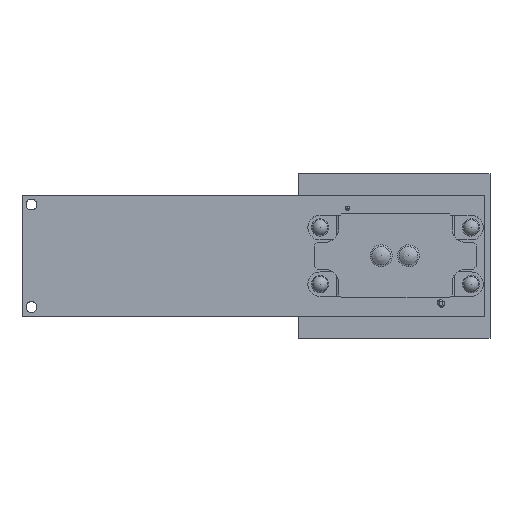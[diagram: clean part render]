
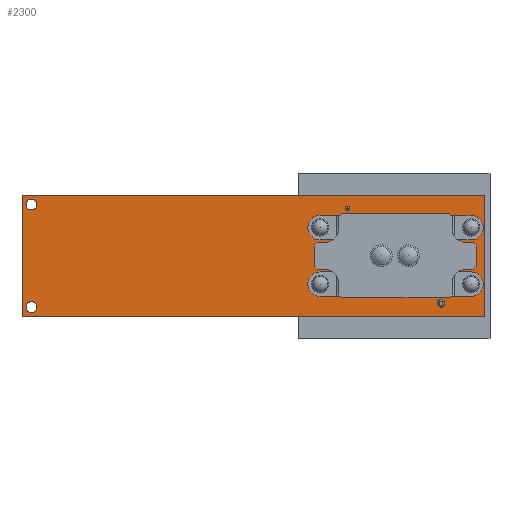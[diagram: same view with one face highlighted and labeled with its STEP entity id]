
A CAD part, top view. The second image highlights one B-rep face of the part: STEP entity #2300.
In plain terms, the highlighted planar face has unit normal (0, 0, 1) as drawn and (0, 0, -1) by its records, which use the part's own axes.
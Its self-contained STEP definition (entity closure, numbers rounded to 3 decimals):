
#1647=CARTESIAN_POINT('',(83.676,-10.498,-1.321));
#1648=VERTEX_POINT('',#1647);
#1649=CARTESIAN_POINT('',(81.676,-10.498,-1.321));
#1650=DIRECTION('',(0.0,0.0,1.0));
#1651=DIRECTION('',(-1.0,0.0,0.0));
#1652=AXIS2_PLACEMENT_3D('',#1649,#1650,#1651);
#1653=CIRCLE('',#1652,2.0);
#1654=EDGE_CURVE('',#1648,#1648,#1653,.T.);
#1675=CARTESIAN_POINT('',(83.676,10.502,-1.321));
#1676=VERTEX_POINT('',#1675);
#1677=CARTESIAN_POINT('',(81.676,10.502,-1.321));
#1678=DIRECTION('',(0.0,0.0,1.0));
#1679=DIRECTION('',(-1.0,0.0,0.0));
#1680=AXIS2_PLACEMENT_3D('',#1677,#1678,#1679);
#1681=CIRCLE('',#1680,2.0);
#1682=EDGE_CURVE('',#1676,#1676,#1681,.T.);
#1703=CARTESIAN_POINT('',(27.676,10.502,-1.321));
#1704=VERTEX_POINT('',#1703);
#1705=CARTESIAN_POINT('',(25.676,10.502,-1.321));
#1706=DIRECTION('',(0.0,0.0,1.0));
#1707=DIRECTION('',(-1.0,0.0,0.0));
#1708=AXIS2_PLACEMENT_3D('',#1705,#1706,#1707);
#1709=CIRCLE('',#1708,2.0);
#1710=EDGE_CURVE('',#1704,#1704,#1709,.T.);
#1731=CARTESIAN_POINT('',(27.676,-10.499,-1.321));
#1732=VERTEX_POINT('',#1731);
#1733=CARTESIAN_POINT('',(25.676,-10.499,-1.321));
#1734=DIRECTION('',(0.0,0.0,1.0));
#1735=DIRECTION('',(-1.0,0.0,0.0));
#1736=AXIS2_PLACEMENT_3D('',#1733,#1734,#1735);
#1737=CIRCLE('',#1736,2.0);
#1738=EDGE_CURVE('',#1732,#1732,#1737,.T.);
#1759=CARTESIAN_POINT('',(35.106,-17.624,-1.321));
#1760=VERTEX_POINT('',#1759);
#1761=CARTESIAN_POINT('',(35.856,-17.624,-1.321));
#1762=DIRECTION('',(0.0,0.0,1.0));
#1763=DIRECTION('',(1.0,0.0,0.0));
#1764=AXIS2_PLACEMENT_3D('',#1761,#1762,#1763);
#1765=CIRCLE('',#1764,0.75);
#1766=EDGE_CURVE('',#1760,#1760,#1765,.T.);
#1787=CARTESIAN_POINT('',(-83.31,-19.0,-1.321));
#1788=VERTEX_POINT('',#1787);
#1789=CARTESIAN_POINT('',(-81.31,-19.0,-1.321));
#1790=DIRECTION('',(0.0,0.0,1.0));
#1791=DIRECTION('',(1.0,0.0,0.0));
#1792=AXIS2_PLACEMENT_3D('',#1789,#1790,#1791);
#1793=CIRCLE('',#1792,2.0);
#1794=EDGE_CURVE('',#1788,#1788,#1793,.T.);
#1815=CARTESIAN_POINT('',(-83.31,19.0,-1.321));
#1816=VERTEX_POINT('',#1815);
#1817=CARTESIAN_POINT('',(-81.31,19.0,-1.321));
#1818=DIRECTION('',(0.0,0.0,1.0));
#1819=DIRECTION('',(1.0,0.0,0.0));
#1820=AXIS2_PLACEMENT_3D('',#1817,#1818,#1819);
#1821=CIRCLE('',#1820,2.0);
#1822=EDGE_CURVE('',#1816,#1816,#1821,.T.);
#1843=CARTESIAN_POINT('',(69.789,18.687,-1.321));
#1844=VERTEX_POINT('',#1843);
#1845=CARTESIAN_POINT('',(69.435,18.334,-1.321));
#1846=VERTEX_POINT('',#1845);
#1847=CARTESIAN_POINT('',(69.789,18.687,-1.321));
#1848=DIRECTION('',(-0.707,-0.707,0.0));
#1849=VECTOR('',#1848,0.5);
#1850=LINE('',#1847,#1849);
#1851=EDGE_CURVE('',#1844,#1846,#1850,.T.);
#1883=CARTESIAN_POINT('',(71.203,16.566,-1.321));
#1884=VERTEX_POINT('',#1883);
#1885=CARTESIAN_POINT('',(70.319,17.45,-1.321));
#1886=DIRECTION('',(0.0,0.0,1.0));
#1887=DIRECTION('',(1.0,0.0,0.0));
#1888=AXIS2_PLACEMENT_3D('',#1885,#1886,#1887);
#1889=CIRCLE('',#1888,1.25);
#1890=EDGE_CURVE('',#1846,#1884,#1889,.T.);
#1916=CARTESIAN_POINT('',(71.556,16.919,-1.321));
#1917=VERTEX_POINT('',#1916);
#1918=CARTESIAN_POINT('',(71.203,16.566,-1.321));
#1919=DIRECTION('',(0.707,0.707,0.0));
#1920=VECTOR('',#1919,0.5);
#1921=LINE('',#1918,#1920);
#1922=EDGE_CURVE('',#1884,#1917,#1921,.T.);
#1947=CARTESIAN_POINT('',(70.672,17.803,-1.321));
#1948=DIRECTION('',(0.0,0.0,1.0));
#1949=DIRECTION('',(1.0,0.0,0.0));
#1950=AXIS2_PLACEMENT_3D('',#1947,#1948,#1949);
#1951=CIRCLE('',#1950,1.25);
#1952=EDGE_CURVE('',#1917,#1844,#1951,.T.);
#1973=CARTESIAN_POINT('',(63.326,8.252,-1.321));
#1974=VERTEX_POINT('',#1973);
#1981=CARTESIAN_POINT('',(63.326,6.752,-1.321));
#1982=VERTEX_POINT('',#1981);
#1983=CARTESIAN_POINT('',(63.326,7.502,-1.321));
#1984=DIRECTION('',(0.0,0.0,1.0));
#1985=DIRECTION('',(1.0,0.0,0.0));
#1986=AXIS2_PLACEMENT_3D('',#1983,#1984,#1985);
#1987=CIRCLE('',#1986,0.75);
#1988=EDGE_CURVE('',#1982,#1974,#1987,.T.);
#2141=CARTESIAN_POINT('',(63.326,-6.749,-1.321));
#2142=VERTEX_POINT('',#2141);
#2143=CARTESIAN_POINT('',(63.326,-6.749,-1.321));
#2144=DIRECTION('',(0.0,1.0,0.0));
#2145=VECTOR('',#2144,13.5);
#2146=LINE('',#2143,#2145);
#2147=EDGE_CURVE('',#2142,#1982,#2146,.T.);
#2164=CARTESIAN_POINT('',(43.026,8.251,-1.321));
#2165=VERTEX_POINT('',#2164);
#2173=CARTESIAN_POINT('',(43.026,6.751,-1.321));
#2174=VERTEX_POINT('',#2173);
#2181=CARTESIAN_POINT('',(43.026,7.501,-1.321));
#2182=DIRECTION('',(0.0,0.0,1.0));
#2183=DIRECTION('',(1.0,0.0,0.0));
#2184=AXIS2_PLACEMENT_3D('',#2181,#2182,#2183);
#2185=CIRCLE('',#2184,0.75);
#2186=EDGE_CURVE('',#2165,#2174,#2185,.T.);
#2191=CARTESIAN_POINT('',(1.0,0.0,-1.321));
#2192=DIRECTION('',(0.0,0.0,1.0));
#2193=DIRECTION('',(1.0,0.0,0.0));
#2194=AXIS2_PLACEMENT_3D('',#2191,#2192,#2193);
#2195=PLANE('',#2194);
#2196=CARTESIAN_POINT('',(-84.81,-22.5,-1.321));
#2197=VERTEX_POINT('',#2196);
#2198=CARTESIAN_POINT('',(86.81,-22.5,-1.321));
#2199=VERTEX_POINT('',#2198);
#2200=CARTESIAN_POINT('',(-84.81,-22.5,-1.321));
#2201=DIRECTION('',(1.0,0.0,0.0));
#2202=VECTOR('',#2201,171.62);
#2203=LINE('',#2200,#2202);
#2204=EDGE_CURVE('',#2197,#2199,#2203,.T.);
#2205=ORIENTED_EDGE('',*,*,#2204,.F.);
#2206=CARTESIAN_POINT('',(-84.81,22.5,-1.321));
#2207=VERTEX_POINT('',#2206);
#2208=CARTESIAN_POINT('',(-84.81,22.5,-1.321));
#2209=DIRECTION('',(0.0,-1.0,0.0));
#2210=VECTOR('',#2209,45.0);
#2211=LINE('',#2208,#2210);
#2212=EDGE_CURVE('',#2207,#2197,#2211,.T.);
#2213=ORIENTED_EDGE('',*,*,#2212,.F.);
#2214=CARTESIAN_POINT('',(86.81,22.5,-1.321));
#2215=VERTEX_POINT('',#2214);
#2216=CARTESIAN_POINT('',(86.81,22.5,-1.321));
#2217=DIRECTION('',(-1.0,0.0,0.0));
#2218=VECTOR('',#2217,171.62);
#2219=LINE('',#2216,#2218);
#2220=EDGE_CURVE('',#2215,#2207,#2219,.T.);
#2221=ORIENTED_EDGE('',*,*,#2220,.F.);
#2222=CARTESIAN_POINT('',(86.81,-22.5,-1.321));
#2223=DIRECTION('',(0.0,1.0,0.0));
#2224=VECTOR('',#2223,45.0);
#2225=LINE('',#2222,#2224);
#2226=EDGE_CURVE('',#2199,#2215,#2225,.T.);
#2227=ORIENTED_EDGE('',*,*,#2226,.F.);
#2228=EDGE_LOOP('',(#2205,#2213,#2221,#2227));
#2229=FACE_OUTER_BOUND('',#2228,.T.);
#2230=ORIENTED_EDGE('',*,*,#1654,.T.);
#2231=EDGE_LOOP('',(#2230));
#2232=FACE_BOUND('',#2231,.T.);
#2233=ORIENTED_EDGE('',*,*,#1682,.T.);
#2234=EDGE_LOOP('',(#2233));
#2235=FACE_BOUND('',#2234,.T.);
#2236=ORIENTED_EDGE('',*,*,#1710,.T.);
#2237=EDGE_LOOP('',(#2236));
#2238=FACE_BOUND('',#2237,.T.);
#2239=ORIENTED_EDGE('',*,*,#1738,.T.);
#2240=EDGE_LOOP('',(#2239));
#2241=FACE_BOUND('',#2240,.T.);
#2242=ORIENTED_EDGE('',*,*,#1822,.T.);
#2243=EDGE_LOOP('',(#2242));
#2244=FACE_BOUND('',#2243,.T.);
#2245=ORIENTED_EDGE('',*,*,#1794,.T.);
#2246=EDGE_LOOP('',(#2245));
#2247=FACE_BOUND('',#2246,.T.);
#2248=ORIENTED_EDGE('',*,*,#1922,.T.);
#2249=ORIENTED_EDGE('',*,*,#1952,.T.);
#2250=ORIENTED_EDGE('',*,*,#1851,.T.);
#2251=ORIENTED_EDGE('',*,*,#1890,.T.);
#2252=EDGE_LOOP('',(#2248,#2249,#2250,#2251));
#2253=FACE_BOUND('',#2252,.T.);
#2254=ORIENTED_EDGE('',*,*,#1988,.T.);
#2255=CARTESIAN_POINT('',(63.326,8.252,-1.321));
#2256=DIRECTION('',(-1.0,0.0,0.0));
#2257=VECTOR('',#2256,20.3);
#2258=LINE('',#2255,#2257);
#2259=EDGE_CURVE('',#1974,#2165,#2258,.T.);
#2260=ORIENTED_EDGE('',*,*,#2259,.T.);
#2261=ORIENTED_EDGE('',*,*,#2186,.T.);
#2262=CARTESIAN_POINT('',(43.026,-6.749,-1.321));
#2263=VERTEX_POINT('',#2262);
#2264=CARTESIAN_POINT('',(43.026,6.751,-1.321));
#2265=DIRECTION('',(0.0,-1.0,0.0));
#2266=VECTOR('',#2265,13.5);
#2267=LINE('',#2264,#2266);
#2268=EDGE_CURVE('',#2174,#2263,#2267,.T.);
#2269=ORIENTED_EDGE('',*,*,#2268,.T.);
#2270=CARTESIAN_POINT('',(43.026,-8.249,-1.321));
#2271=VERTEX_POINT('',#2270);
#2272=CARTESIAN_POINT('',(43.026,-7.499,-1.321));
#2273=DIRECTION('',(0.0,0.0,1.0));
#2274=DIRECTION('',(1.0,0.0,0.0));
#2275=AXIS2_PLACEMENT_3D('',#2272,#2273,#2274);
#2276=CIRCLE('',#2275,0.75);
#2277=EDGE_CURVE('',#2263,#2271,#2276,.T.);
#2278=ORIENTED_EDGE('',*,*,#2277,.T.);
#2279=CARTESIAN_POINT('',(63.326,-8.249,-1.321));
#2280=VERTEX_POINT('',#2279);
#2281=CARTESIAN_POINT('',(43.026,-8.249,-1.321));
#2282=DIRECTION('',(1.0,0.0,0.0));
#2283=VECTOR('',#2282,20.3);
#2284=LINE('',#2281,#2283);
#2285=EDGE_CURVE('',#2271,#2280,#2284,.T.);
#2286=ORIENTED_EDGE('',*,*,#2285,.T.);
#2287=CARTESIAN_POINT('',(63.326,-7.499,-1.321));
#2288=DIRECTION('',(0.0,0.0,1.0));
#2289=DIRECTION('',(1.0,0.0,0.0));
#2290=AXIS2_PLACEMENT_3D('',#2287,#2288,#2289);
#2291=CIRCLE('',#2290,0.75);
#2292=EDGE_CURVE('',#2280,#2142,#2291,.T.);
#2293=ORIENTED_EDGE('',*,*,#2292,.T.);
#2294=ORIENTED_EDGE('',*,*,#2147,.T.);
#2295=EDGE_LOOP('',(#2254,#2260,#2261,#2269,#2278,#2286,#2293,#2294));
#2296=FACE_BOUND('',#2295,.T.);
#2297=ORIENTED_EDGE('',*,*,#1766,.T.);
#2298=EDGE_LOOP('',(#2297));
#2299=FACE_BOUND('',#2298,.T.);
#2300=ADVANCED_FACE('',(#2229,#2232,#2235,#2238,#2241,#2244,#2247,#2253,#2296,#2299),#2195,.F.);
